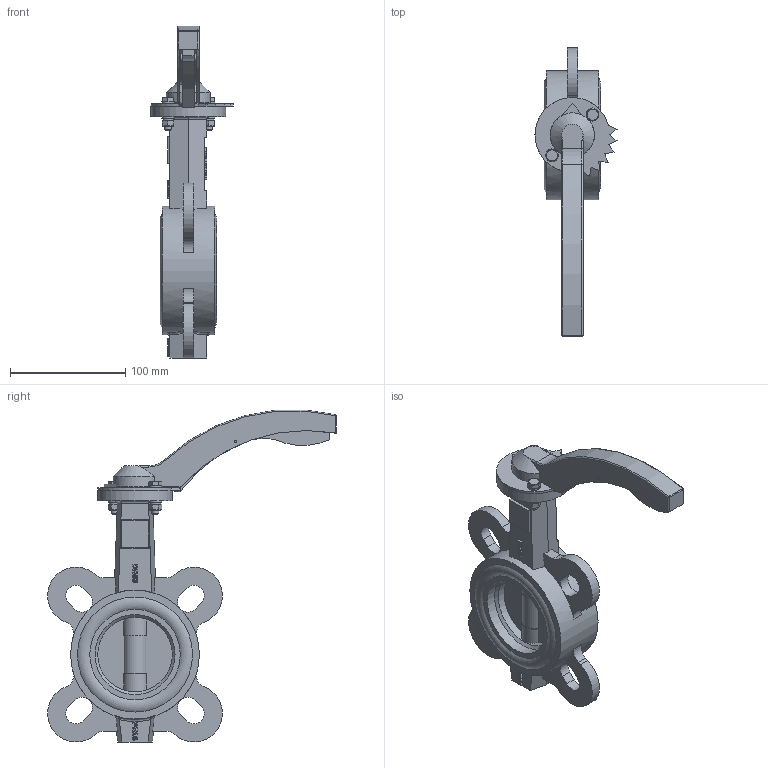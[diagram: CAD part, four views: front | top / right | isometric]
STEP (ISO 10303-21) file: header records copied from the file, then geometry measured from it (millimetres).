
FILE_DESCRIPTION(('STEP AP242'), '1');
FILE_NAME('Ïîâîðîòíûé çàòâîð ïîä ýëåêòðîïðèâîä', '', ('UNSPECIFIED'), ('UNSPECIFIED'), 'C3D Converter', 'C3D Toolkit', '');
FILE_SCHEMA(('AP242_MANAGED_MODEL_BASED_3D_ENGINEERING_MIM_LF { 1 0 10303 442 1 1 4 }'));
Length unit declared in the file: millimetre
Products named in the file (14): П
Assembly tree (20 placements, depth 3):
  (unnamed)
    (unnamed)
    П  x2
    (unnamed)
    (unnamed)
    (unnamed)
    (unnamed)
      (unnamed)
      (unnamed)
      (unnamed)
    (unnamed)  x2
    (unnamed)  x4
    (unnamed)  x2
    (unnamed)  x2
Bounding box: 71.39 x 250.93 x 288.61 mm (x, y, z)
Volume: 577067.2 mm3; surface area: 192703.9 mm2
Topology: 19 solids, 19 shells, 591 faces, 1511 edges, 984 vertices
Faces by surface type: plane 296, extrusion 151, cylinder 108, cone 18, torus 10, bspline 6, sphere 2
Full cylindrical faces by diameter (mm): 2 x2, 3 x2, 4.917 x2, 6 x4, 6.6 x4, 7 x6, 8.223 x1, 11 x4, 14 x6, 19.799 x5, 21.66 x4, 22.627 x1, 65 x2, 69.56 x2, 78.68 x2, 89.34 x4, 100 x4, 112 x1
Entity records: 22935 total; most frequent: CARTESIAN_POINT 7420, ORIENTED_EDGE 2702, DIRECTION 2162, EDGE_CURVE 1351, VERTEX_POINT 924, VECTOR 880, LINE 729, EDGE_LOOP 679
